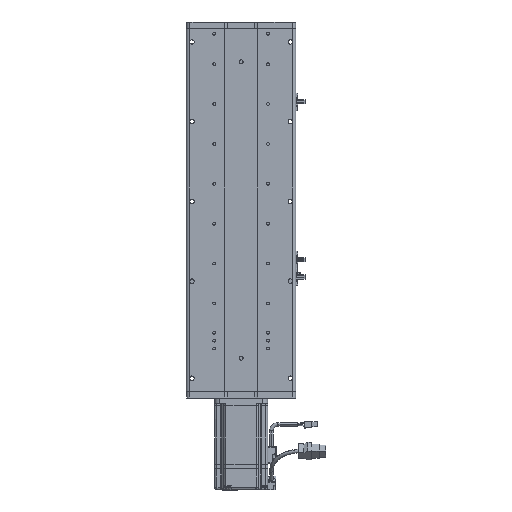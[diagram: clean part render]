
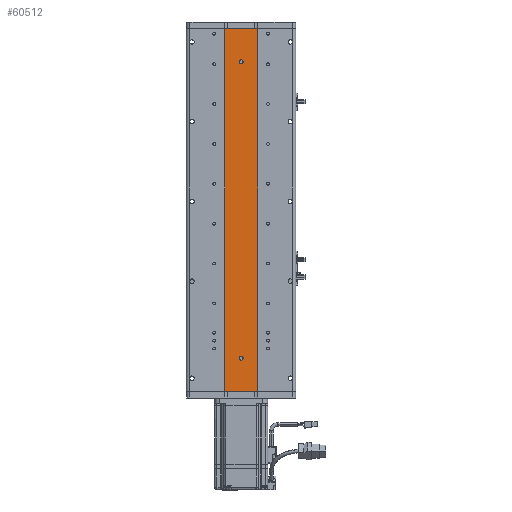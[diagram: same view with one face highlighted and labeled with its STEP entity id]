
A CAD part, front view. The second image highlights one B-rep face of the part: STEP entity #60512.
In plain terms, the highlighted planar face has unit normal (0, -1, 0).
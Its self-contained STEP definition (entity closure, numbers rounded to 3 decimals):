
#688 = VERTEX_POINT ( 'NONE', #55434 ) ;
#781 = VERTEX_POINT ( 'NONE', #56670 ) ;
#1908 = VECTOR ( 'NONE', #57778, 1000. ) ;
#2171 = CARTESIAN_POINT ( 'NONE',  ( 0., 1., 223. ) ) ;
#3572 = VECTOR ( 'NONE', #45948, 1000. ) ;
#3777 = EDGE_CURVE ( 'NONE', #781, #46772, #14545, .T. ) ;
#4291 = CARTESIAN_POINT ( 'NONE',  ( 0., 1., -220. ) ) ;
#4732 = CARTESIAN_POINT ( 'NONE',  ( 0., 1., -223. ) ) ;
#5025 = LINE ( 'NONE', #12427, #3572 ) ;
#6056 = ORIENTED_EDGE ( 'NONE', *, *, #25509, .F. ) ;
#6901 = CARTESIAN_POINT ( 'NONE',  ( -25., 1., 273. ) ) ;
#6938 = DIRECTION ( 'NONE',  ( 0., 0., -1. ) ) ;
#8527 = VERTEX_POINT ( 'NONE', #16389 ) ;
#8762 = FACE_BOUND ( 'NONE', #49526, .T. ) ;
#9496 = DIRECTION ( 'NONE',  ( 0., 0., -1. ) ) ;
#12023 = EDGE_CURVE ( 'NONE', #58571, #688, #48067, .T. ) ;
#12427 = CARTESIAN_POINT ( 'NONE',  ( 25., 1., 273. ) ) ;
#13026 = VERTEX_POINT ( 'NONE', #4291 ) ;
#14090 = DIRECTION ( 'NONE',  ( 0., -1., 0. ) ) ;
#14545 = LINE ( 'NONE', #14580, #1908 ) ;
#14572 = AXIS2_PLACEMENT_3D ( 'NONE', #20139, #53702, #24955 ) ;
#14580 = CARTESIAN_POINT ( 'NONE',  ( 25., 1., 273. ) ) ;
#16389 = CARTESIAN_POINT ( 'NONE',  ( 0., 1., 220. ) ) ;
#17200 = ORIENTED_EDGE ( 'NONE', *, *, #61900, .F. ) ;
#20139 = CARTESIAN_POINT ( 'NONE',  ( 0., 1., 223. ) ) ;
#21808 = VERTEX_POINT ( 'NONE', #32735 ) ;
#22146 = CARTESIAN_POINT ( 'NONE',  ( 25., 1., 273. ) ) ;
#22903 = AXIS2_PLACEMENT_3D ( 'NONE', #2171, #35520, #6938 ) ;
#23716 = CIRCLE ( 'NONE', #56895, 3. ) ;
#24955 = DIRECTION ( 'NONE',  ( 0., 0., -1. ) ) ;
#25509 = EDGE_CURVE ( 'NONE', #21808, #13026, #32714, .T. ) ;
#26199 = ORIENTED_EDGE ( 'NONE', *, *, #3777, .F. ) ;
#26464 = EDGE_LOOP ( 'NONE', ( #44883, #45558 ) ) ;
#26967 = DIRECTION ( 'NONE',  ( 0., 0., 1. ) ) ;
#27053 = LINE ( 'NONE', #6901, #39707 ) ;
#27255 = CARTESIAN_POINT ( 'NONE',  ( 25., 1., 273. ) ) ;
#29586 = ORIENTED_EDGE ( 'NONE', *, *, #12023, .T. ) ;
#30396 = EDGE_CURVE ( 'NONE', #13026, #21808, #23716, .T. ) ;
#30914 = AXIS2_PLACEMENT_3D ( 'NONE', #42733, #14090, #47612 ) ;
#31232 = FACE_BOUND ( 'NONE', #26464, .T. ) ;
#32714 = CIRCLE ( 'NONE', #30914, 3. ) ;
#32735 = CARTESIAN_POINT ( 'NONE',  ( 0., 1., -226. ) ) ;
#32836 = CARTESIAN_POINT ( 'NONE',  ( -25., 1., -273. ) ) ;
#33178 = EDGE_CURVE ( 'NONE', #35419, #8527, #40526, .T. ) ;
#33950 = EDGE_LOOP ( 'NONE', ( #29586, #17200, #26199, #53470 ) ) ;
#33991 = EDGE_CURVE ( 'NONE', #8527, #35419, #44074, .T. ) ;
#35276 = VECTOR ( 'NONE', #50816, 1000. ) ;
#35419 = VERTEX_POINT ( 'NONE', #39120 ) ;
#35520 = DIRECTION ( 'NONE',  ( 0., -1., 0. ) ) ;
#36075 = CARTESIAN_POINT ( 'NONE',  ( 25., 1., -273. ) ) ;
#38101 = DIRECTION ( 'NONE',  ( 0., -1., 0. ) ) ;
#39120 = CARTESIAN_POINT ( 'NONE',  ( 0., 1., 226. ) ) ;
#39707 = VECTOR ( 'NONE', #50003, 1000. ) ;
#40526 = CIRCLE ( 'NONE', #22903, 3. ) ;
#41124 = ORIENTED_EDGE ( 'NONE', *, *, #30396, .F. ) ;
#41135 = DIRECTION ( 'NONE',  ( 0., 1., 0. ) ) ;
#42056 = EDGE_CURVE ( 'NONE', #781, #58571, #27053, .T. ) ;
#42733 = CARTESIAN_POINT ( 'NONE',  ( 0., 1., -223. ) ) ;
#44074 = CIRCLE ( 'NONE', #14572, 3. ) ;
#44617 = AXIS2_PLACEMENT_3D ( 'NONE', #22146, #41135, #26967 ) ;
#44883 = ORIENTED_EDGE ( 'NONE', *, *, #33991, .F. ) ;
#45469 = FACE_OUTER_BOUND ( 'NONE', #33950, .T. ) ;
#45558 = ORIENTED_EDGE ( 'NONE', *, *, #33178, .F. ) ;
#45948 = DIRECTION ( 'NONE',  ( 0., 0., -1. ) ) ;
#46772 = VERTEX_POINT ( 'NONE', #27255 ) ;
#47612 = DIRECTION ( 'NONE',  ( 0., 0., -1. ) ) ;
#48067 = LINE ( 'NONE', #36075, #35276 ) ;
#49526 = EDGE_LOOP ( 'NONE', ( #6056, #41124 ) ) ;
#50003 = DIRECTION ( 'NONE',  ( 0., 0., -1. ) ) ;
#50816 = DIRECTION ( 'NONE',  ( 1., 0., 0. ) ) ;
#50846 = PLANE ( 'NONE',  #44617 ) ;
#53470 = ORIENTED_EDGE ( 'NONE', *, *, #42056, .T. ) ;
#53702 = DIRECTION ( 'NONE',  ( 0., -1., 0. ) ) ;
#55434 = CARTESIAN_POINT ( 'NONE',  ( 25., 1., -273. ) ) ;
#56670 = CARTESIAN_POINT ( 'NONE',  ( -25., 1., 273. ) ) ;
#56895 = AXIS2_PLACEMENT_3D ( 'NONE', #4732, #38101, #9496 ) ;
#57778 = DIRECTION ( 'NONE',  ( 1., 0., 0. ) ) ;
#58571 = VERTEX_POINT ( 'NONE', #32836 ) ;
#60512 = ADVANCED_FACE ( 'NONE', ( #8762, #31232, #45469 ), #50846, .F. ) ;
#61900 = EDGE_CURVE ( 'NONE', #46772, #688, #5025, .T. ) ;
